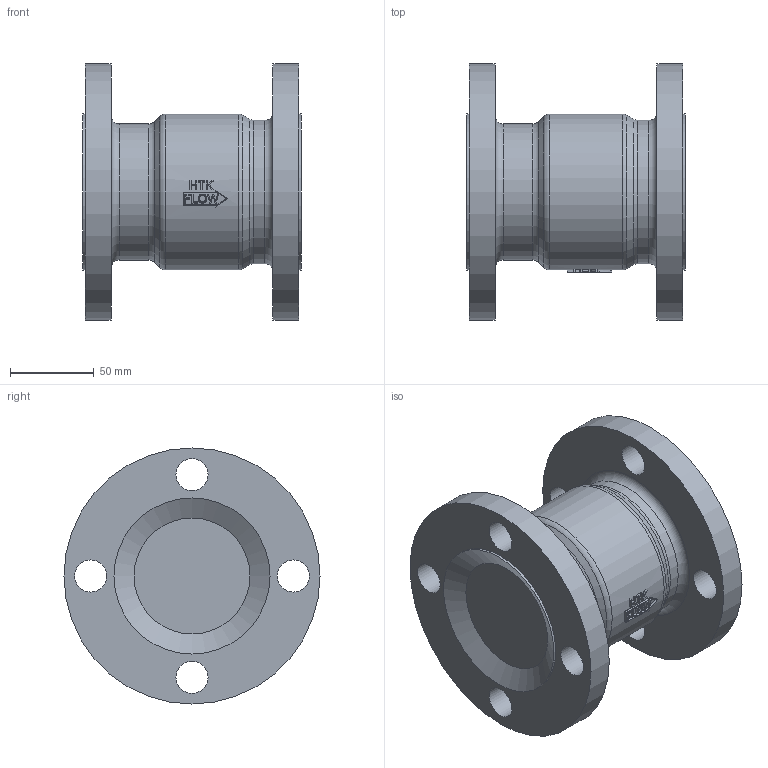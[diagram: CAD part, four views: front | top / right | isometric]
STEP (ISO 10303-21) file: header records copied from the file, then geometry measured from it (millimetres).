
FILE_DESCRIPTION( ( 'Unknown' ), '1' );
FILE_NAME( 'Y:/ENGR/3D Solid Edge Models/HT/HT-PRT/HTK.stp', 'Unknown', ( 'Unknown' ), ( 'Unknown' ), 'PSStep 14.0', 'Unknown', ' ' );
FILE_SCHEMA( ( 'AUTOMOTIVE_DESIGN { 1 0 10303 214 1 1 1 1 }' ) );
Length unit declared in the file: inch
Products named in the file (1): 1
Bounding box: 130.3 x 152.4 x 152.4 mm (x, y, z)
Volume: 1066228.1 mm3; surface area: 110014.4 mm2
Topology: 1 solids, 1 shells, 119 faces, 302 edges, 200 vertices
Faces by surface type: plane 65, cylinder 26, bspline 19, torus 6, cone 3
Full cylindrical faces by diameter (mm): 19.05 x8, 73.152 x1, 81.026 x1, 85.242 x1, 92.71 x1, 92.888 x2, 152.4 x2
Entity records: 5281 total; most frequent: CARTESIAN_POINT 2032, ORIENTED_EDGE 536, DIRECTION 280, EDGE_CURVE 268, B_SPLINE_CURVE_WITH_KNOTS 229, VERTEX_POINT 193, EDGE_LOOP 177, FACE_OUTER_BOUND 143
